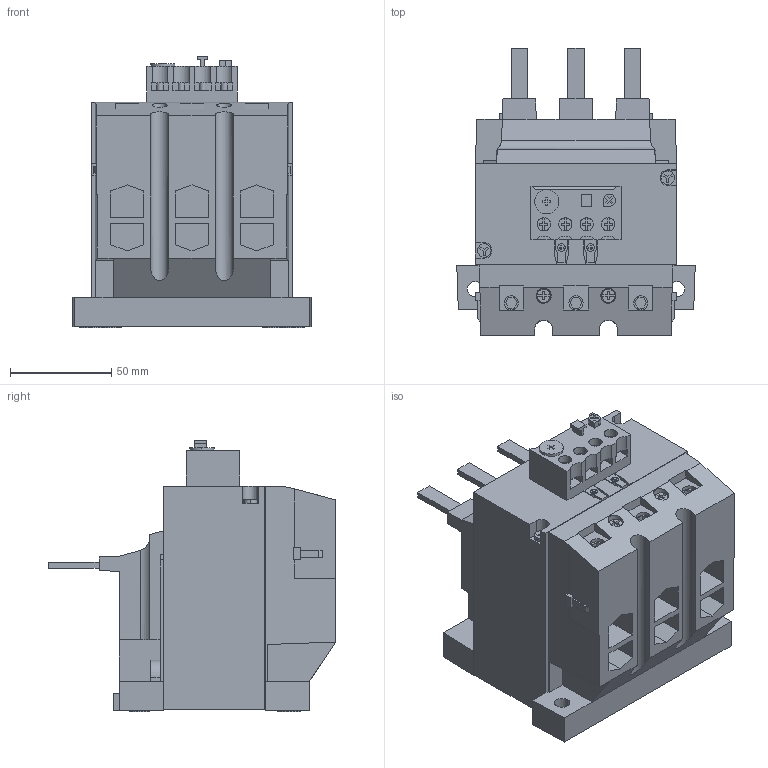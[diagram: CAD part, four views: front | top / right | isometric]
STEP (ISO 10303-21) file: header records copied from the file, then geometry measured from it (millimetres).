
FILE_DESCRIPTION( ( '' ), '1' );
FILE_NAME( '//expscmdclustefs.cadenas.external/client_exchange/iodir/jobs/output/wkb46358119_no0/STEP/278464_2_03.stp', '2012-06-26T13:37:07', ( '' ), ( '' ), ' ', ' ', ' ' );
FILE_SCHEMA( ( 'CONFIG_CONTROL_DESIGN' ) );
Length unit declared in the file: millimetre
Products named in the file (1): 1
Bounding box: 118 x 142 x 134.4 mm (x, y, z)
Volume: 992621.4 mm3; surface area: 123079.6 mm2
Topology: 1 solids, 1 shells, 531 faces, 1446 edges, 961 vertices
Faces by surface type: plane 450, cylinder 77, cone 4
Entity records: 16685 total; most frequent: CARTESIAN_POINT 2993, ORIENTED_EDGE 2892, DIRECTION 2691, EDGE_CURVE 1446, LINE 1245, VECTOR 1245, VERTEX_POINT 961, AXIS2_PLACEMENT_3D 723
